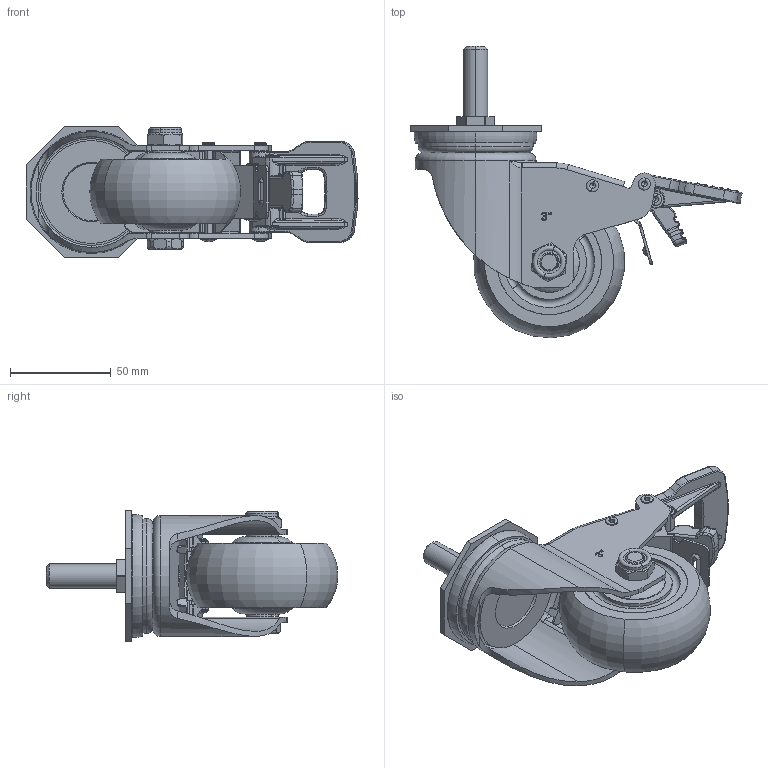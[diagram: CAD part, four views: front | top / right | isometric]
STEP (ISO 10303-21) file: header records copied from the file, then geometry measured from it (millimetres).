
FILE_DESCRIPTION (( 'STEP AP203' ), '1' );
FILE_NAME ('3寸丝扣万向刹车.STEP', '2024-03-19T03:37:28', ( '微软用户' ), ( '微软中国' ), 'SwSTEP 2.0', 'SolidWorks 2008', '' );
FILE_SCHEMA (( 'CONFIG_CONTROL_DESIGN' ));
Length unit declared in the file: millimetre
Products named in the file (13): 3.9｡ﾁ49ﾎｲｿﾗｶ､_ﾄｬﾈﾏ; 3.9｡ﾁ39ﾎｲｿﾗｶ､_ﾄｬﾈﾏ; 3.9｡ﾁ30ﾎｲｿﾗｶ､_ﾄｬﾈﾏ; 40.2mm中型中管_默认; 刹车手柄ON_默认; 解刹手柄OFF   B_默认; 2023-3-15 3寸刹车片 B_默认; 丝扣_默认; 中型3寸轮_默认; 3渡佪諶勀砃价陬; 2023-3-8  中型3寸（AB刹）支架B_默认; M10-55蹟裝; M10蹟譫
Assembly tree (13 placements, depth 2):
  3渡佪諶勀砃价陬
    解刹手柄OFF   B_默认
    3.9｡ﾁ49ﾎｲｿﾗｶ､_ﾄｬﾈﾏ  x2
    M10蹟譫
    刹车手柄ON_默认
    2023-3-8  中型3寸（AB刹）支架B_默认
    40.2mm中型中管_默认
    中型3寸轮_默认
    3.9｡ﾁ39ﾎｲｿﾗｶ､_ﾄｬﾈﾏ
    2023-3-15 3寸刹车片 B_默认
    3.9｡ﾁ30ﾎｲｿﾗｶ､_ﾄｬﾈﾏ
    丝扣_默认
    M10-55蹟裝
Bounding box: 164.61 x 144.6 x 65.01 mm (x, y, z)
Volume: 245417.9 mm3; surface area: 89611 mm2
Topology: 13 solids, 13 shells, 1346 faces, 3355 edges, 2057 vertices
Faces by surface type: cylinder 533, plane 356, bspline 297, torus 108, cone 38, sphere 14
Entity records: 54660 total; most frequent: CARTESIAN_POINT 23996, ORIENTED_EDGE 6568, DIRECTION 5548, EDGE_CURVE 3284, AXIS2_PLACEMENT_3D 2082, VERTEX_POINT 2035, EDGE_LOOP 1427, VECTOR 1384
